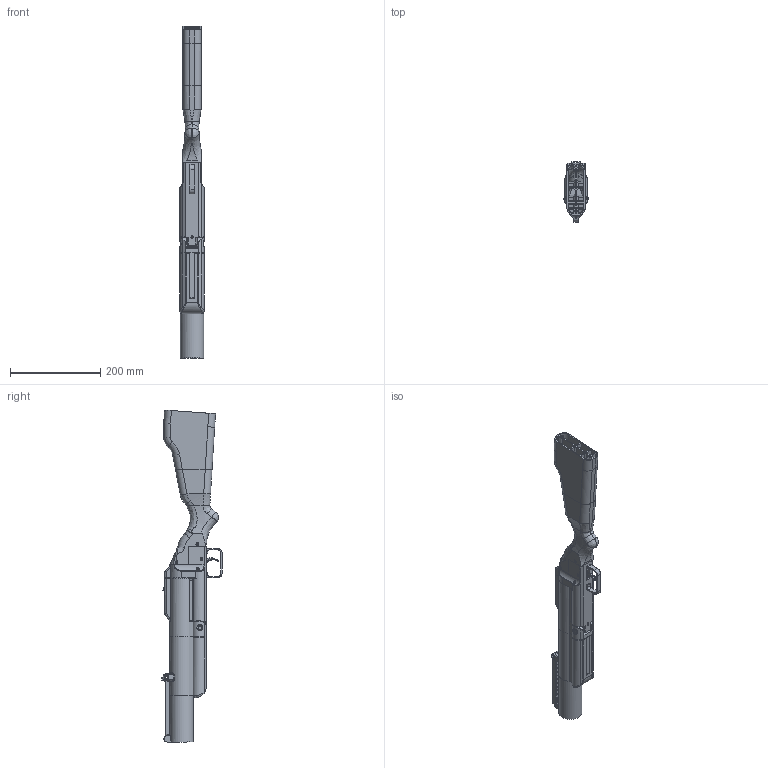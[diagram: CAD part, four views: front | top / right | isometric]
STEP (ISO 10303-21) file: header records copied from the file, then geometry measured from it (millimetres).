
FILE_DESCRIPTION(/* description */ (''),/* implementation_level */ '2;1');
FILE_NAME(/* name */ 'D:\3D Printer stuff\M69\AWCY''s NT79 37mm Signaling Device\NT79\NT79 V1 COMPLETE ASSEMBLY.stp',/* time_stamp */ '2022-06-25T13:17:27-05:00',/* author */ ('drewk'),/* organization */ (''),/* preprocessor_version */ 'ST-DEVELOPER v18.1',/* originating_system */ 'Autodesk Inventor 2021',/* authorisation */ '');
FILE_SCHEMA (('AUTOMOTIVE_DESIGN { 1 0 10303 214 3 1 1 }'));
Products named in the file (30): COMPLETE ASSEMBLY; COMPLETE RECEIVER; receiver hinge block; trigger; cocking lever; hammer all printed; 20mm pin; 92095A201_Button Head Hex Drive Screw; firing pin sleeve; firing pin bolt face cover; COMPLETE STOCK; stock grip; stock middle; stock rear; stock rods; COMPLETE BARREL; main barrel sleeve; Ejector; barrel latch; barrel latch thumb thingy; 91290A144_Alloy Steel Socket Head Screw; barrel; 10MM PIN; rear sight and handguard sleeve; handguard grip; sights; rear sight ladder; 40mm pin; hinge pin; trigger guard
Assembly tree (40 placements, depth 3):
  COMPLETE ASSEMBLY
    COMPLETE RECEIVER
      receiver hinge block
      trigger
      40mm pin  x2
      cocking lever
      hammer all printed
      20mm pin  x5
      92095A201_Button Head Hex Drive Screw
      firing pin sleeve
      firing pin bolt face cover
      91290A144_Alloy Steel Socket Head Screw  x2
    COMPLETE STOCK
      stock grip
      stock middle
      stock rear
      stock rods  x2
    COMPLETE BARREL
      main barrel sleeve
      Ejector
      barrel latch
      barrel latch thumb thingy
      10MM PIN  x2
      91290A144_Alloy Steel Socket Head Screw
      barrel
      rear sight and handguard sleeve
      handguard grip
      sights
      rear sight ladder
    40mm pin  x2
    hinge pin
    trigger guard
Bounding box: 53.52 x 133.56 x 734.84 mm (x, y, z)
Volume: 1288530.8 mm3; surface area: 564334.2 mm2
Topology: 38 solids, 40 shells, 3155 faces, 7952 edges, 5174 vertices
Faces by surface type: plane 2191, cylinder 633, bspline 182, torus 66, cone 56, sphere 27
Full cylindrical faces by diameter (mm): 2.35 x68, 2.8 x1, 3 x69, 3.091 x36, 3.175 x11, 3.3 x2, 3.4 x1, 3.7 x1, 3.8 x1, 4 x62, 4.013 x2, 4.1 x1, 4.159 x2, 4.2 x6, 4.216 x1, 4.8 x1, 5 x3, 5.5 x1, 5.7 x1, 6 x1, 7 x7, 7.3 x2, 7.986 x2, 9 x1, 9.5 x2, 9.525 x2, 9.774 x2, 10.5 x2, 38.5 x1, 41.5 x1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
Entity records: 92295 total; most frequent: CARTESIAN_POINT 36000, ORIENTED_EDGE 11816, DIRECTION 10634, EDGE_CURVE 5908, VERTEX_POINT 3838, LINE 3824, VECTOR 3824, AXIS2_PLACEMENT_3D 3405
